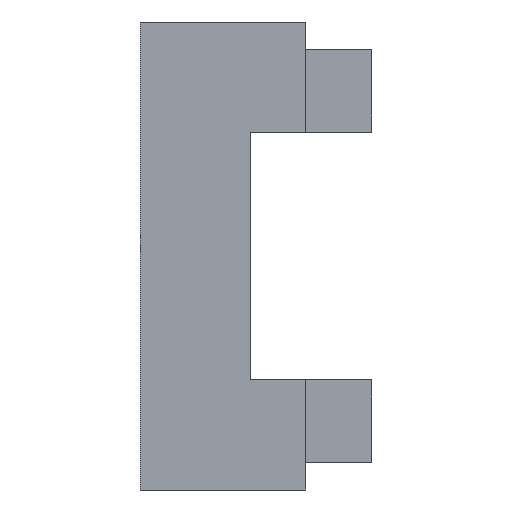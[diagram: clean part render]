
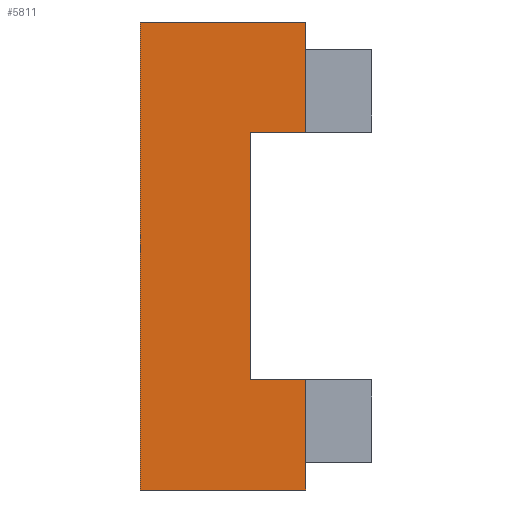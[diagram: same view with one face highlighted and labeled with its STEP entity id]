
A CAD part, left-side view. The second image highlights one B-rep face of the part: STEP entity #5811.
In plain terms, the highlighted planar face has unit normal (-1, 0, 0).
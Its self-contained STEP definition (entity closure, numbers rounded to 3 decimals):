
#5794=AXIS2_PLACEMENT_3D('Plane Axis2P3D',#5791,#5792,#5793) ;
#829=CARTESIAN_POINT('Vertex',(-15.2,0.,12.5)) ;
#832=CARTESIAN_POINT('Line Origine',(-15.2,1.,12.5)) ;
#836=CARTESIAN_POINT('Vertex',(-15.2,2.,12.5)) ;
#1465=CARTESIAN_POINT('Vertex',(-15.2,2.,3.5)) ;
#1468=CARTESIAN_POINT('Line Origine',(-15.2,1.,3.5)) ;
#1472=CARTESIAN_POINT('Vertex',(-15.2,0.,3.5)) ;
#3174=CARTESIAN_POINT('Line Origine',(-15.2,2.,8.)) ;
#3415=CARTESIAN_POINT('Vertex',(-15.2,0.,-0.5)) ;
#3451=CARTESIAN_POINT('Line Origine',(-15.2,0.,1.5)) ;
#5125=CARTESIAN_POINT('Line Origine',(-15.2,3.,-0.5)) ;
#5129=CARTESIAN_POINT('Vertex',(-15.2,6.,-0.5)) ;
#5578=CARTESIAN_POINT('Vertex',(-15.2,6.,16.5)) ;
#5581=CARTESIAN_POINT('Line Origine',(-15.2,3.,16.5)) ;
#5585=CARTESIAN_POINT('Vertex',(-15.2,0.,16.5)) ;
#5772=CARTESIAN_POINT('Line Origine',(-15.2,0.,14.5)) ;
#5791=CARTESIAN_POINT('Axis2P3D Location',(-15.2,0.,0.)) ;
#5796=CARTESIAN_POINT('Line Origine',(-15.2,6.,8.)) ;
#833=DIRECTION('Vector Direction',(0.,1.,0.)) ;
#1469=DIRECTION('Vector Direction',(0.,1.,0.)) ;
#3175=DIRECTION('Vector Direction',(0.,0.,1.)) ;
#3452=DIRECTION('Vector Direction',(0.,0.,1.)) ;
#5126=DIRECTION('Vector Direction',(0.,1.,0.)) ;
#5582=DIRECTION('Vector Direction',(0.,1.,0.)) ;
#5773=DIRECTION('Vector Direction',(0.,0.,1.)) ;
#5792=DIRECTION('Axis2P3D Direction',(1.,0.,0.)) ;
#5793=DIRECTION('Axis2P3D XDirection',(0.,1.,0.)) ;
#5797=DIRECTION('Vector Direction',(0.,0.,1.)) ;
#834=VECTOR('Line Direction',#833,1.) ;
#1470=VECTOR('Line Direction',#1469,1.) ;
#3176=VECTOR('Line Direction',#3175,1.) ;
#3453=VECTOR('Line Direction',#3452,1.) ;
#5127=VECTOR('Line Direction',#5126,1.) ;
#5583=VECTOR('Line Direction',#5582,1.) ;
#5774=VECTOR('Line Direction',#5773,1.) ;
#5798=VECTOR('Line Direction',#5797,1.) ;
#5802=ORIENTED_EDGE('',*,*,#5800,.F.) ;
#5803=ORIENTED_EDGE('',*,*,#5131,.T.) ;
#5804=ORIENTED_EDGE('',*,*,#3455,.T.) ;
#5805=ORIENTED_EDGE('',*,*,#1474,.T.) ;
#5806=ORIENTED_EDGE('',*,*,#3178,.T.) ;
#5807=ORIENTED_EDGE('',*,*,#838,.F.) ;
#5808=ORIENTED_EDGE('',*,*,#5776,.T.) ;
#5809=ORIENTED_EDGE('',*,*,#5587,.F.) ;
#5811=ADVANCED_FACE('\X2\96F64EF651E04F554F53\X0\',(#5810),#5795,.F.) ;
#838=EDGE_CURVE('',#830,#837,#835,.T.) ;
#1474=EDGE_CURVE('',#1473,#1466,#1471,.T.) ;
#3178=EDGE_CURVE('',#1466,#837,#3177,.T.) ;
#3455=EDGE_CURVE('',#3416,#1473,#3454,.T.) ;
#5131=EDGE_CURVE('',#5130,#3416,#5128,.F.) ;
#5587=EDGE_CURVE('',#5579,#5586,#5584,.F.) ;
#5776=EDGE_CURVE('',#830,#5586,#5775,.T.) ;
#5800=EDGE_CURVE('',#5130,#5579,#5799,.T.) ;
#5801=EDGE_LOOP('',(#5802,#5803,#5804,#5805,#5806,#5807,#5808,#5809)) ;
#5810=FACE_OUTER_BOUND('',#5801,.T.) ;
#835=LINE('Line',#832,#834) ;
#1471=LINE('Line',#1468,#1470) ;
#3177=LINE('Line',#3174,#3176) ;
#3454=LINE('Line',#3451,#3453) ;
#5128=LINE('Line',#5125,#5127) ;
#5584=LINE('Line',#5581,#5583) ;
#5775=LINE('Line',#5772,#5774) ;
#5799=LINE('Line',#5796,#5798) ;
#5795=PLANE('Plane',#5794) ;
#830=VERTEX_POINT('',#829) ;
#837=VERTEX_POINT('',#836) ;
#1466=VERTEX_POINT('',#1465) ;
#1473=VERTEX_POINT('',#1472) ;
#3416=VERTEX_POINT('',#3415) ;
#5130=VERTEX_POINT('',#5129) ;
#5579=VERTEX_POINT('',#5578) ;
#5586=VERTEX_POINT('',#5585) ;
